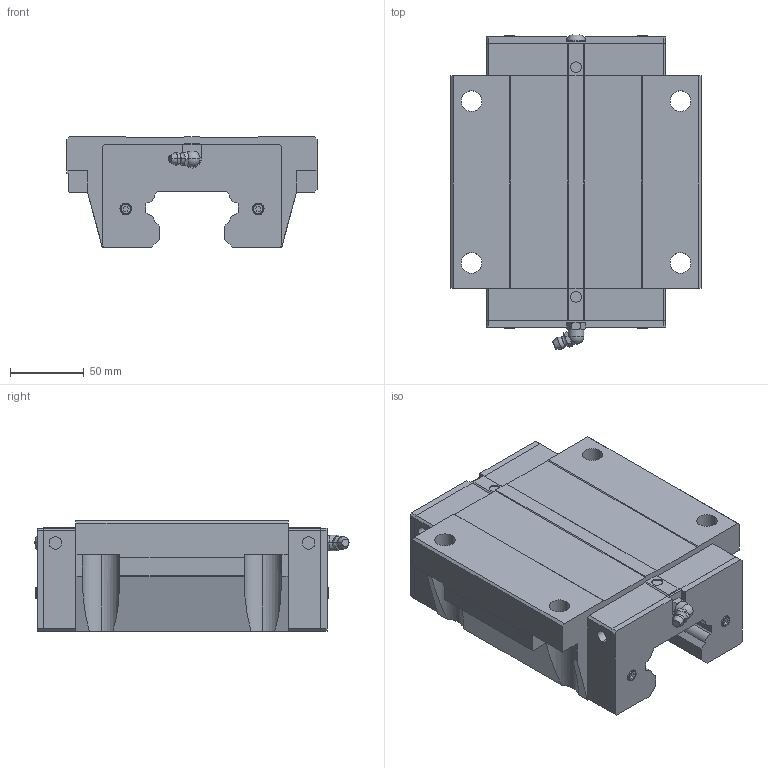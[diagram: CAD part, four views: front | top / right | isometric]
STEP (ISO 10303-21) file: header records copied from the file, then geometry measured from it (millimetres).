
FILE_DESCRIPTION(('no description'),'unknown implementation level');
FILE_NAME('HGW65CC_Z0_H_SS_28.stp',' ',('HIWIN GmbH'),('CADClick - KiM GmbH - www.kimweb.de'),'unknown preprocess','ACIS','unknown authorization');
FILE_SCHEMA(('automotive_design'));
Length unit declared in the file: millimetre
Products named in the file (1): HGW65CC Z0 H SS
Bounding box: 170 x 213.52 x 75 mm (x, y, z)
Volume: 1610725.4 mm3; surface area: 133272.3 mm2
Topology: 1 solids, 6 shells, 305 faces, 787 edges, 509 vertices
Faces by surface type: plane 191, cylinder 68, torus 30, cone 14, sphere 2
Entity records: 18380 total; most frequent: CARTESIAN_POINT 1900, STYLED_ITEM 1600, PRESENTATION_STYLE_ASSIGNMENT 1600, COLOUR_RGB 1600, DIRECTION 1574, ORIENTED_EDGE 1570, EDGE_CURVE 785, CURVE_STYLE 785
